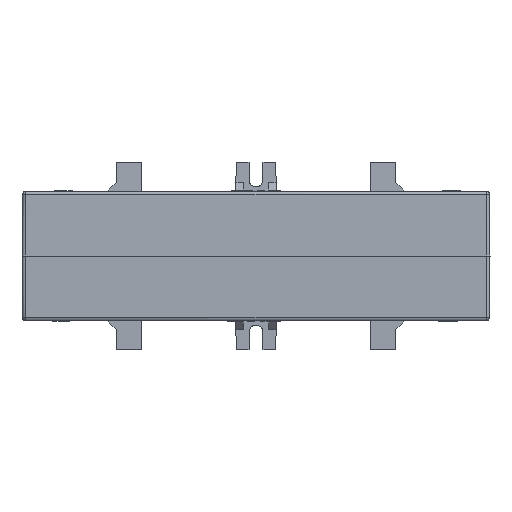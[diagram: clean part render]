
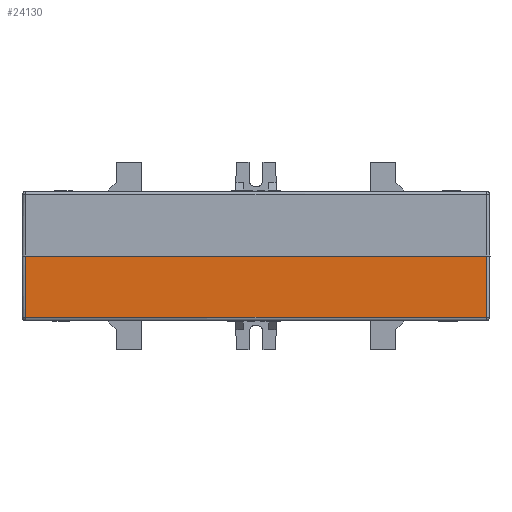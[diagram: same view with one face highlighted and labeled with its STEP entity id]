
A CAD part, front view. The second image highlights one B-rep face of the part: STEP entity #24130.
In plain terms, the highlighted planar face has unit normal (0, -1, -0.009).
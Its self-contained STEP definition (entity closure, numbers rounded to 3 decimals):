
#1001=FACE_OUTER_BOUND('',#2321,.T.);
#2321=EDGE_LOOP('',(#16713,#16714,#16715,#16716));
#4332=LINE('',#34958,#7180);
#4491=LINE('',#35489,#7339);
#4525=LINE('',#35554,#7373);
#4527=LINE('',#35557,#7375);
#7180=VECTOR('',#27759,1.);
#7339=VECTOR('',#28116,1.);
#7373=VECTOR('',#28180,1.);
#7375=VECTOR('',#28184,1.);
#9989=VERTEX_POINT('',#34798);
#9993=VERTEX_POINT('',#34957);
#10116=VERTEX_POINT('',#35452);
#10120=VERTEX_POINT('',#35487);
#12490=EDGE_CURVE('',#9993,#9989,#4332,.T.);
#12685=EDGE_CURVE('',#10120,#10116,#4491,.T.);
#12719=EDGE_CURVE('',#10116,#9989,#4525,.T.);
#12721=EDGE_CURVE('',#10120,#9993,#4527,.T.);
#16713=ORIENTED_EDGE('',*,*,#12685,.F.);
#16714=ORIENTED_EDGE('',*,*,#12721,.T.);
#16715=ORIENTED_EDGE('',*,*,#12490,.T.);
#16716=ORIENTED_EDGE('',*,*,#12719,.F.);
#23159=PLANE('',#25546);
#24130=ADVANCED_FACE('',(#1001),#23159,.F.);
#25546=AXIS2_PLACEMENT_3D('',#35556,#28182,#28183);
#27759=DIRECTION('',(0.009,0.009,-1.));
#28116=DIRECTION('',(-0.009,0.009,-1.));
#28180=DIRECTION('',(-1.,0.,0.));
#28182=DIRECTION('center_axis',(0.,1.,
0.009));
#28183=DIRECTION('ref_axis',(0.,0.009,-1.));
#28184=DIRECTION('',(-1.,0.,0.));
#34798=CARTESIAN_POINT('',(236.104,-91.547,-17.009));
#34957=CARTESIAN_POINT('',(235.956,-91.695,0.));
#34958=CARTESIAN_POINT('',(235.956,-91.695,0.));
#35452=CARTESIAN_POINT('',(363.896,-91.547,-17.009));
#35487=CARTESIAN_POINT('',(364.044,-91.695,0.));
#35489=CARTESIAN_POINT('',(364.044,-91.695,0.));
#35554=CARTESIAN_POINT('',(413.644,-91.547,-17.009));
#35556=CARTESIAN_POINT('Origin',(413.644,-91.695,0.));
#35557=CARTESIAN_POINT('',(413.644,-91.695,0.));
